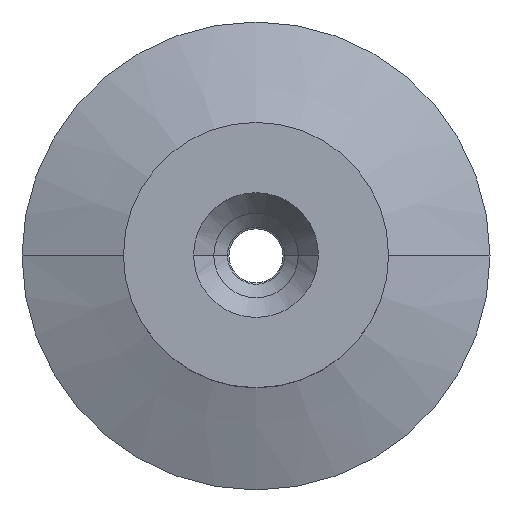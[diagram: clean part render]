
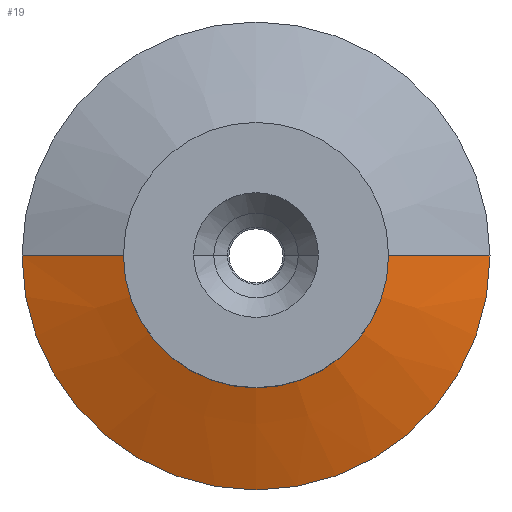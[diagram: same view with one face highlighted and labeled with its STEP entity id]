
A CAD part, top view. The second image highlights one B-rep face of the part: STEP entity #19.
In plain terms, the highlighted conical face has half-angle 68.817 degrees and reference radius 15 mm.
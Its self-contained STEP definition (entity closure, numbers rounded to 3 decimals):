
#19 = ADVANCED_FACE ( 'NONE', ( #866 ), #100, .T. ) ;
#21 = ORIENTED_EDGE ( 'NONE', *, *, #827, .F. ) ;
#45 = DIRECTION ( 'NONE',  ( 0., 0., -1. ) ) ;
#49 = AXIS2_PLACEMENT_3D ( 'NONE', #463, #908, #384 ) ;
#63 = CIRCLE ( 'NONE', #414, 2.378 ) ;
#100 = CONICAL_SURFACE ( 'NONE', #972, 15., 1.201 ) ;
#152 = LINE ( 'NONE', #905, #760 ) ;
#157 = CARTESIAN_POINT ( 'NONE',  ( -15., 0., -35. ) ) ;
#176 = DIRECTION ( 'NONE',  ( 0., 0., 1. ) ) ;
#195 = VECTOR ( 'NONE', #732, 1000. ) ;
#199 = CARTESIAN_POINT ( 'NONE',  ( -2.378, 0., -30.109 ) ) ;
#249 = EDGE_CURVE ( 'NONE', #453, #965, #910, .T. ) ;
#260 = DIRECTION ( 'NONE',  ( -1., 0., 0. ) ) ;
#280 = VERTEX_POINT ( 'NONE', #723 ) ;
#301 = CARTESIAN_POINT ( 'NONE',  ( 0., 0., -30.109 ) ) ;
#337 = VERTEX_POINT ( 'NONE', #880 ) ;
#347 = ORIENTED_EDGE ( 'NONE', *, *, #387, .T. ) ;
#384 = DIRECTION ( 'NONE',  ( 1., 0., 0. ) ) ;
#387 = EDGE_CURVE ( 'NONE', #965, #337, #648, .T. ) ;
#414 = AXIS2_PLACEMENT_3D ( 'NONE', #301, #176, #621 ) ;
#453 = VERTEX_POINT ( 'NONE', #199 ) ;
#462 = EDGE_LOOP ( 'NONE', ( #726, #21, #722, #347 ) ) ;
#463 = CARTESIAN_POINT ( 'NONE',  ( 0., 0., -35. ) ) ;
#551 = DIRECTION ( 'NONE',  ( 0.932, 0., -0.361 ) ) ;
#621 = DIRECTION ( 'NONE',  ( 1., 0., 0. ) ) ;
#648 = CIRCLE ( 'NONE', #49, 15. ) ;
#722 = ORIENTED_EDGE ( 'NONE', *, *, #249, .T. ) ;
#723 = CARTESIAN_POINT ( 'NONE',  ( 2.378, 0., -30.109 ) ) ;
#726 = ORIENTED_EDGE ( 'NONE', *, *, #892, .F. ) ;
#732 = DIRECTION ( 'NONE',  ( -0.932, 0., -0.361 ) ) ;
#746 = CARTESIAN_POINT ( 'NONE',  ( -15., 0., -35. ) ) ;
#760 = VECTOR ( 'NONE', #551, 1000. ) ;
#827 = EDGE_CURVE ( 'NONE', #453, #280, #63, .T. ) ;
#866 = FACE_OUTER_BOUND ( 'NONE', #462, .T. ) ;
#880 = CARTESIAN_POINT ( 'NONE',  ( 15., 0., -35. ) ) ;
#892 = EDGE_CURVE ( 'NONE', #280, #337, #152, .T. ) ;
#896 = CARTESIAN_POINT ( 'NONE',  ( 0., 0., -35. ) ) ;
#905 = CARTESIAN_POINT ( 'NONE',  ( 15., 0., -35. ) ) ;
#908 = DIRECTION ( 'NONE',  ( 0., 0., 1. ) ) ;
#910 = LINE ( 'NONE', #746, #195 ) ;
#965 = VERTEX_POINT ( 'NONE', #157 ) ;
#972 = AXIS2_PLACEMENT_3D ( 'NONE', #896, #45, #260 ) ;
